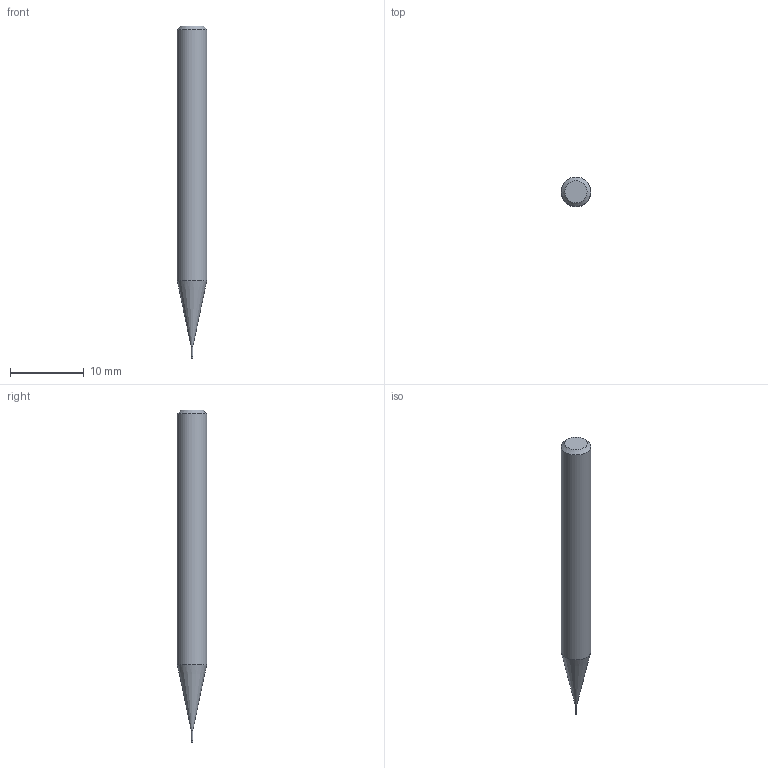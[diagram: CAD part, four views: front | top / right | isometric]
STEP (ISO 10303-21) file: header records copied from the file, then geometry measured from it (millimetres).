
FILE_DESCRIPTION((''),'2;1');
FILE_NAME('C:\Users\nsx150\AppData\Local\Temp\Mastercam 2021\RJ5U8K7RMU\TEMP.step','2021-04-21T16:39:27',(''),(''),'STEP Write','Mastercam 2021 ... CNC Software, Inc.','');
FILE_SCHEMA(('AUTOMOTIVE_DESIGN'));
Length unit declared in the file: millimetre
Products named in the file (1): None
Bounding box: 4 x 4 x 45 mm (x, y, z)
Volume: 471.7 mm3; surface area: 503.5 mm2
Topology: 2 solids, 2 shells, 9 faces, 12 edges, 7 vertices
Faces by surface type: plane 4, cylinder 3, cone 2
Full cylindrical faces by diameter (mm): 0.18 x1, 0.2 x1, 4 x1
Entity records: 211 total; most frequent: DIRECTION 36, CARTESIAN_POINT 25, AXIS2_PLACEMENT_3D 18, ORIENTED_EDGE 14, EDGE_LOOP 14, STYLED_ITEM 12, ADVANCED_FACE 9, FACE_BOUND 8
